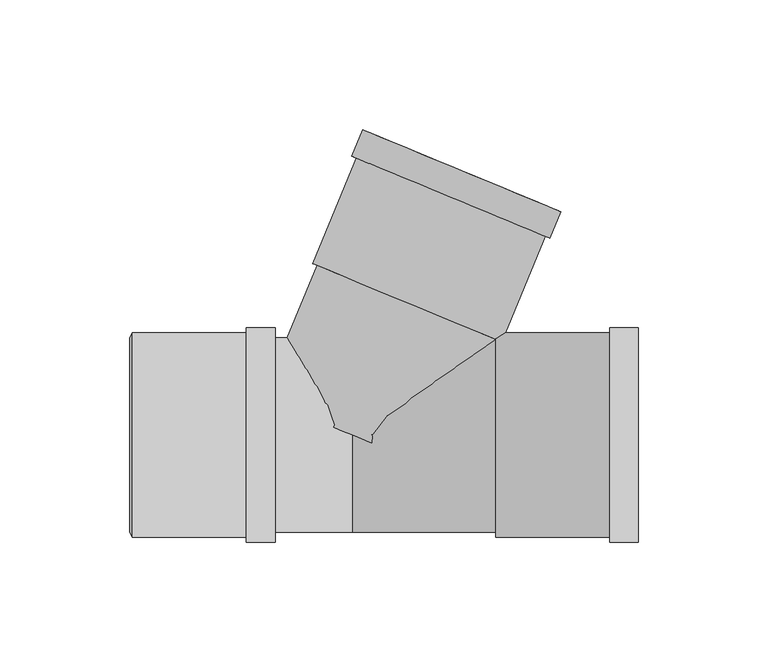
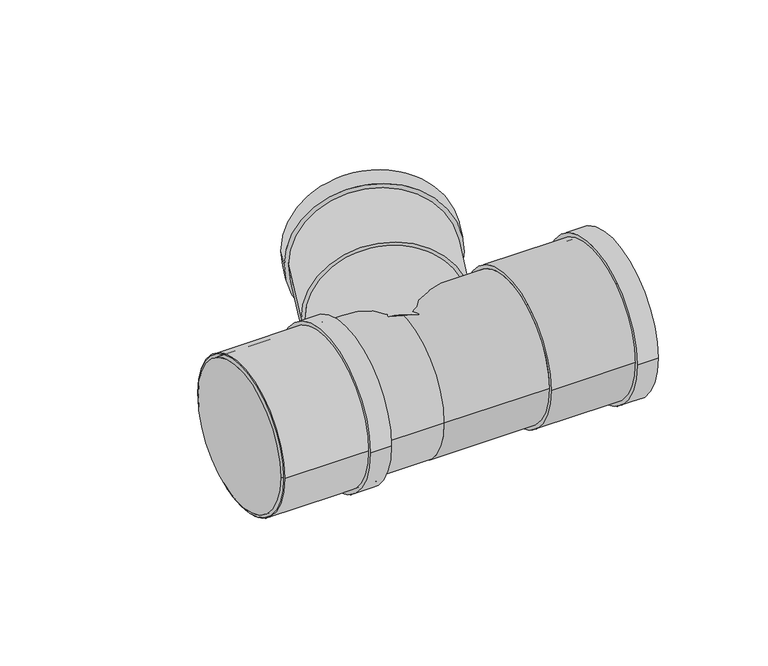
"""IFC4 building model written with IfcOpenShell, lengths in millimetres: pipe fitting geometry, Superdrain HTEA Branch : Superdrain HTEA Branch."""

from ifc_helpers import new_model, si_unit, point, frame, origin, origin_2d, place, context, project, spatial, polyline, circle_curve, trimmed, segment, composite_curve, outline, extrude, source, transform, mapped, element, save
from ifc_brep_helpers import plane_surface, revolved_surface, advanced_brep


def pipe_fitting_190eae22(model_context):
    return source(origin(), model_context, "Body", "SolidModel", [
        extrude(outline(composite_curve([segment(trimmed(circle_curve(origin_2d(), 39.375), [point((39.375, 0.0))], [point((-39.375, 0.0))], False, "CARTESIAN"), True, "CONTINUOUS"), segment(trimmed(circle_curve(origin_2d(), 39.375), [point((-39.375, 0.0))], [point((39.375, 0.0))], False, "CARTESIAN"), True, "CONTINUOUS")], self_intersect=False), holes=[composite_curve([segment(trimmed(circle_curve(origin_2d(), 37.5), [point((37.5, 0.0))], [point((-37.5, 0.0))], True, "CARTESIAN"), True, "CONTINUOUS"), segment(trimmed(circle_curve(origin_2d(), 37.5), [point((-37.5, 0.0))], [point((37.5, 0.0))], True, "CARTESIAN"), True, "CONTINUOUS")], self_intersect=False)]), frame((-84.8, 0.0, 0.0), z_axis=(1.0, 0.0, 0.0), x_axis=(0.0, 1.0, 0.0)), (0.0, 0.0, 1.0), 55.0),
        extrude(outline(composite_curve([segment(trimmed(circle_curve(origin_2d(), 41.34375), [point((41.34375, 0.0))], [point((-41.34375, 0.0))], False, "CARTESIAN"), True, "CONTINUOUS"), segment(trimmed(circle_curve(origin_2d(), 41.34375), [point((-41.34375, 0.0))], [point((41.34375, 0.0))], False, "CARTESIAN"), True, "CONTINUOUS")], self_intersect=False), holes=[composite_curve([segment(trimmed(circle_curve(origin_2d(), 37.5), [point((37.5, 0.0))], [point((-37.5, 0.0))], True, "CARTESIAN"), True, "CONTINUOUS"), segment(trimmed(circle_curve(origin_2d(), 37.5), [point((-37.5, 0.0))], [point((37.5, 0.0))], True, "CARTESIAN"), True, "CONTINUOUS")], self_intersect=False)]), frame((-40.8, 0.0, 0.0), z_axis=(1.0, 0.0, 0.0), x_axis=(0.0, 1.0, 0.0)), (0.0, 0.0, 1.0), 11.0),
        advanced_brep(
        [(-85.8, 37.5, 0.0), (-85.8, -37.5, 0.0), (-84.8, 39.375, 0.0), (-84.8, -39.375, 0.0)],
        [
            (0, 1, circle_curve(frame((-85.8, 0.0, 0.0), z_axis=(-1.0, 0.0, 0.0), x_axis=(0.0, 1.0000000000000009, 0.0)), 37.5)),
            (1, 0, circle_curve(frame((-85.8, 0.0, 0.0), z_axis=(-1.0, 0.0, 0.0), x_axis=(0.0, -1.0000000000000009, 0.0)), 37.5)),
            (2, 3, circle_curve(frame((-84.8, 0.0, 0.0), z_axis=(1.0, 0.0, 0.0), x_axis=(0.0, -1.0000000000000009, 0.0)), 39.375)),
            (3, 2, circle_curve(frame((-84.8, 0.0, 0.0), z_axis=(1.0, 0.0, 0.0), x_axis=(0.0, 1.0000000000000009, 0.0)), 39.375)),
            (3, 1),
            (0, 2),
        ],
        [
            plane_surface(frame((-85.8, 0.0, 0.0), z_axis=(-1.0, 0.0, 0.0), x_axis=(0.0, 0.0, -1.0))),
            plane_surface(frame((-84.8, 0.0, 0.0), z_axis=(1.0, 0.0, 0.0), x_axis=(0.0, 0.0, -1.0))),
            revolved_surface(polyline([(-85.8, 37.49999999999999, 0.0), (-84.8, 39.375, 0.0)]), (-105.8, 0.0, 0.0), (1.0000000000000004, 0.0, 0.0)),
            revolved_surface(polyline([(-85.8, -37.49999999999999, 0.0), (-84.8, -39.375, 0.0)]), (-105.8, 0.0, 0.0), (1.0000000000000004, 0.0, 0.0)),
        ],
        [
            (0, [[1, 2]]),
            (1, [[3, 4]]),
            (2, [[-4, 5, -1, 6]]),
            (3, [[-3, -6, -2, -5]]),
        ],
    ),
        extrude(outline(composite_curve([segment(trimmed(circle_curve(origin_2d(), 39.375), [point((-39.375, 0.0))], [point((39.375, 0.0))], False, "CARTESIAN"), True, "CONTINUOUS"), segment(trimmed(circle_curve(origin_2d(), 39.375), [point((39.375, 0.0))], [point((-39.375, 0.0))], False, "CARTESIAN"), True, "CONTINUOUS")], self_intersect=False), holes=[composite_curve([segment(trimmed(circle_curve(origin_2d(), 37.5), [point((37.5, 0.0))], [point((-37.5, 0.0))], True, "CARTESIAN"), True, "CONTINUOUS"), segment(trimmed(circle_curve(origin_2d(), 37.5), [point((-37.5, 0.0))], [point((37.5, 0.0))], True, "CARTESIAN"), True, "CONTINUOUS")], self_intersect=False)]), frame((55.2, 0.0, 0.0), z_axis=(1.0, 0.0, 0.0), x_axis=(0.0, 1.0, 0.0)), (0.0, 0.0, 1.0), 55.0),
        extrude(outline(composite_curve([segment(trimmed(circle_curve(origin_2d(), 41.34375), [point((41.34375, 0.0))], [point((-41.34375, 0.0))], False, "CARTESIAN"), True, "CONTINUOUS"), segment(trimmed(circle_curve(origin_2d(), 41.34375), [point((-41.34375, 0.0))], [point((41.34375, 0.0))], False, "CARTESIAN"), True, "CONTINUOUS")], self_intersect=False), holes=[composite_curve([segment(trimmed(circle_curve(origin_2d(), 37.5), [point((37.5, 0.0))], [point((-37.5, 0.0))], True, "CARTESIAN"), True, "CONTINUOUS"), segment(trimmed(circle_curve(origin_2d(), 37.5), [point((-37.5, 0.0))], [point((37.5, 0.0))], True, "CARTESIAN"), True, "CONTINUOUS")], self_intersect=False)]), frame((99.2, 0.0, 0.0), z_axis=(1.0, 0.0, 0.0), x_axis=(0.0, 1.0, 0.0)), (0.0, 0.0, 1.0), 11.0),
        extrude(outline(composite_curve([segment(trimmed(circle_curve(origin_2d(), 37.5), [point((0.0, 37.5))], [point((0.0, -37.5))], False, "CARTESIAN"), True, "CONTINUOUS"), segment(trimmed(circle_curve(origin_2d(), 37.5), [point((0.0, -37.5))], [point((0.0, 37.5))], False, "CARTESIAN"), True, "CONTINUOUS")], self_intersect=False)), frame((0.0, 0.0, 0.0), z_axis=(0.3826834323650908, 0.9238795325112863, 0.0), x_axis=(0.0, 0.0, 1.0)), (0.0, 0.0, 1.0), 55.2),
        extrude(outline(composite_curve([segment(trimmed(circle_curve(origin_2d(), 37.5), [point((37.5, 0.0))], [point((-37.5, 0.0))], False, "CARTESIAN"), True, "CONTINUOUS"), segment(trimmed(circle_curve(origin_2d(), 37.5), [point((-37.5, 0.0))], [point((37.5, 0.0))], False, "CARTESIAN"), True, "CONTINUOUS")], self_intersect=False)), frame((-84.8, 0.0, 0.0), z_axis=(1.0, 0.0, 0.0), x_axis=(0.0, 1.0, 0.0)), (0.0, 0.0, 1.0), 84.8),
        extrude(outline(composite_curve([segment(trimmed(circle_curve(origin_2d(), 37.5), [point((-37.5, 0.0))], [point((37.5, 0.0))], False, "CARTESIAN"), True, "CONTINUOUS"), segment(trimmed(circle_curve(origin_2d(), 37.5), [point((37.5, 0.0))], [point((-37.5, 0.0))], False, "CARTESIAN"), True, "CONTINUOUS")], self_intersect=False)), frame((0.0, 0.0, 0.0), z_axis=(1.0, 0.0, 0.0), x_axis=(0.0, 1.0, 0.0)), (0.0, 0.0, 1.0), 55.2),
        extrude(outline(composite_curve([segment(trimmed(circle_curve(origin_2d(), 41.34375), [point((0.0, 41.34375))], [point((0.0, -41.34375))], False, "CARTESIAN"), True, "CONTINUOUS"), segment(trimmed(circle_curve(origin_2d(), 41.34375), [point((0.0, -41.34375))], [point((0.0, 41.34375))], False, "CARTESIAN"), True, "CONTINUOUS")], self_intersect=False), holes=[composite_curve([segment(trimmed(circle_curve(origin_2d(), 37.5), [point((0.0, 37.5))], [point((0.0, -37.5))], True, "CARTESIAN"), True, "CONTINUOUS"), segment(trimmed(circle_curve(origin_2d(), 37.5), [point((0.0, -37.5))], [point((0.0, 37.5))], True, "CARTESIAN"), True, "CONTINUOUS")], self_intersect=False)]), frame((37.9621965, 91.6488496, 0.0), z_axis=(0.3826834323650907, 0.9238795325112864, 0.0), x_axis=(0.0, 0.0, 1.0)), (0.0, 0.0, 1.0), 11.0),
        extrude(outline(composite_curve([segment(trimmed(circle_curve(origin_2d(), 39.375), [point((0.0, 39.375))], [point((0.0, -39.375))], False, "CARTESIAN"), True, "CONTINUOUS"), segment(trimmed(circle_curve(origin_2d(), 39.375), [point((0.0, -39.375))], [point((0.0, 39.375))], False, "CARTESIAN"), True, "CONTINUOUS")], self_intersect=False), holes=[composite_curve([segment(trimmed(circle_curve(origin_2d(), 37.5), [point((0.0, 37.4999999))], [point((0.0, -37.5))], True, "CARTESIAN"), True, "CONTINUOUS"), segment(trimmed(circle_curve(origin_2d(), 37.5), [point((0.0, -37.5))], [point((0.0, 37.4999999))], True, "CARTESIAN"), True, "CONTINUOUS")], self_intersect=False)]), frame((21.1241255, 50.9981502, 0.0), z_axis=(0.38268343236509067, 0.9238795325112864, 0.0), x_axis=(0.0, 0.0, 1.0)), (0.0, 0.0, 1.0), 55.0),
    ])


if __name__ == "__main__":
    model = new_model("IFC4")
    model_context = context("Model", 3, world=origin())
    ifc_project = project(units=[si_unit("LENGTHUNIT", "METRE", prefix="MILLI")], contexts=[model_context])
    site = spatial("IfcSite", under=ifc_project)
    building = spatial("IfcBuilding", under=site)
    placement = place(None, origin())
    pipe_fitting_shape = pipe_fitting_190eae22(model_context)
    element("IfcPipeFitting", 1, ObjectType="Superdrain HTEA Branch : Superdrain HTEA Branch", at=placement, inside=building, context=model_context, shape_type="MappedRepresentation", body=[
        mapped(pipe_fitting_shape, transform((0.0, 0.0, 0.0), x_axis=(1.0, 0.0, 0.0), y_axis=(0.0, 1.0, 0.0), z_axis=(0.0, 0.0, 1.0))),
    ])
    save(model, "model.ifc")
